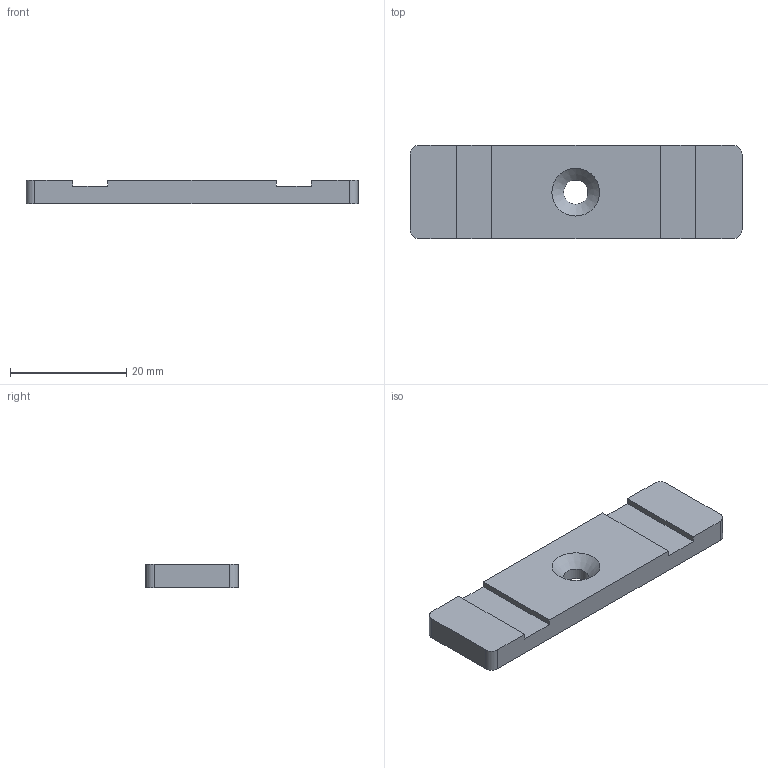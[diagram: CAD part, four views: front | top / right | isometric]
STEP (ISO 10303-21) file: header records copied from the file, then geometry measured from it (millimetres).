
FILE_DESCRIPTION(/* description */ ('Unknown'),/* implementation_level */ '2;1');
FILE_NAME(/* name */ 'display-tie-O27',/* time_stamp */ '2024-10-03T12:20:28-05:00',/* author */ ('Unknown'),/* organization */ ('Unknown'),/* preprocessor_version */ 'ST-DEVELOPER v18.102',/* originating_system */ 'Solid Edge',/* authorisation */ 'Unknown');
FILE_SCHEMA (('AUTOMOTIVE_DESIGN {1 0 10303 214 3 1 1}'));
Length unit declared in the file: millimetre
Products named in the file (1): display-tie-O27
Bounding box: 57 x 16 x 4 mm (x, y, z)
Volume: 3358.1 mm3; surface area: 2448.7 mm2
Topology: 1 solids, 1 shells, 20 faces, 55 edges, 37 vertices
Faces by surface type: plane 14, cylinder 5, cone 1
Full cylindrical faces by diameter (mm): 4.2 x1
Entity records: 644 total; most frequent: CARTESIAN_POINT 107, DIRECTION 104, ORIENTED_EDGE 102, EDGE_CURVE 51, LINE 40, VECTOR 40, VERTEX_POINT 35, AXIS2_PLACEMENT_3D 32
